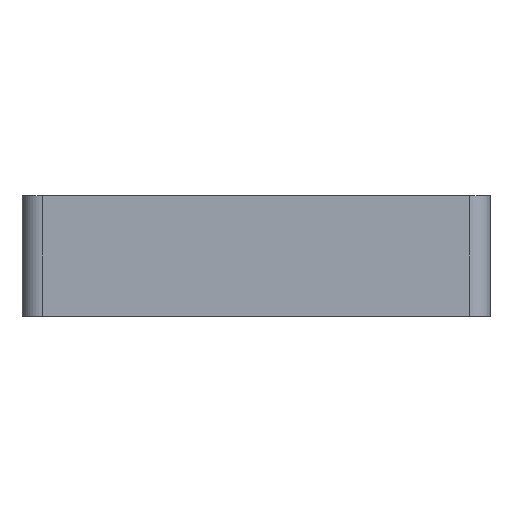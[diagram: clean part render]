
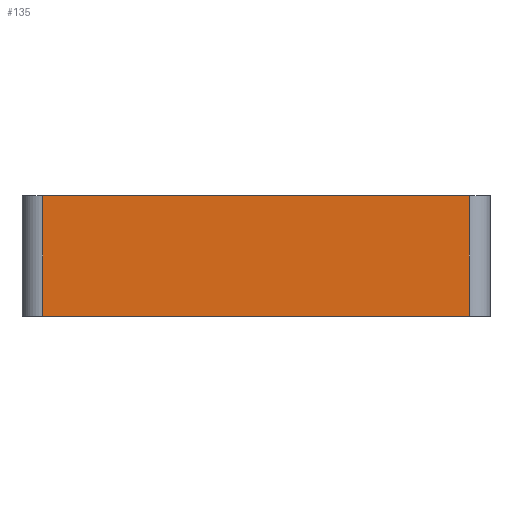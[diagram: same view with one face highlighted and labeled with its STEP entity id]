
A CAD part, left-side view. The second image highlights one B-rep face of the part: STEP entity #135.
In plain terms, the highlighted free-form (B-spline) face has degree [1, 1] with [2, 2] control points.
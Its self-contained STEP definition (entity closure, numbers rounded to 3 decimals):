
#21 = EDGE_CURVE('',#22,#24,#26,.T.);
#22 = VERTEX_POINT('',#23);
#23 = CARTESIAN_POINT('',(-3.29,78.28,
    10.));
#24 = VERTEX_POINT('',#25);
#25 = CARTESIAN_POINT('',(-3.29,78.28,
    32.));
#26 = SURFACE_CURVE('',#27,(#30,#44),.PCURVE_S1.);
#27 = B_SPLINE_CURVE_WITH_KNOTS('',1,(#28,#29),.UNSPECIFIED.,.F.,.F.,(2,
    2),(0.,10.),.PIECEWISE_BEZIER_KNOTS.);
#28 = CARTESIAN_POINT('',(-3.29,78.28,
    10.));
#29 = CARTESIAN_POINT('',(-3.29,78.28,
    32.));
#30 = PCURVE('',#31,#38);
#31 = ( BOUNDED_SURFACE() B_SPLINE_SURFACE(2,1,(
    (#32,#33)
    ,(#34,#35)
,(#36,#37
  )),.UNSPECIFIED.,.F.,.F.,.F.) B_SPLINE_SURFACE_WITH_KNOTS((3,3),(2,2),
  (0.,1.571),(-10.,0.),.PIECEWISE_BEZIER_KNOTS.) 
GEOMETRIC_REPRESENTATION_ITEM() RATIONAL_B_SPLINE_SURFACE((
    (1.,1.)
    ,(0.707,0.707)
,(1.,1.))) REPRESENTATION_ITEM('') SURFACE() );
#32 = CARTESIAN_POINT('',(-3.29,78.28,
    32.));
#33 = CARTESIAN_POINT('',(-3.29,78.28,
    10.));
#34 = CARTESIAN_POINT('',(-3.29,82.03,
    32.));
#35 = CARTESIAN_POINT('',(-3.29,82.03,
    10.));
#36 = CARTESIAN_POINT('',(0.46,82.03,32.));
#37 = CARTESIAN_POINT('',(0.46,82.03,10.));
#38 = DEFINITIONAL_REPRESENTATION('',(#39),#43);
#39 = B_SPLINE_CURVE_WITH_KNOTS('',2,(#40,#41,#42),.UNSPECIFIED.,.F.,.F.
  ,(3,3),(0.,10.),.PIECEWISE_BEZIER_KNOTS.);
#40 = CARTESIAN_POINT('',(0.,0.));
#41 = CARTESIAN_POINT('',(0.,-5.));
#42 = CARTESIAN_POINT('',(0.,-10.));
#43 = ( GEOMETRIC_REPRESENTATION_CONTEXT(2) 
PARAMETRIC_REPRESENTATION_CONTEXT() REPRESENTATION_CONTEXT('2D SPACE',''
  ) );
#44 = PCURVE('',#45,#50);
#45 = B_SPLINE_SURFACE_WITH_KNOTS('',1,1,(
    (#46,#47)
    ,(#48,#49
    )),.UNSPECIFIED.,.F.,.F.,.F.,(2,2),(2,2),(0.,77.82),(
    -10.,0.),.PIECEWISE_BEZIER_KNOTS.);
#46 = CARTESIAN_POINT('',(-3.29,0.46,32.));
#47 = CARTESIAN_POINT('',(-3.29,0.46,10.));
#48 = CARTESIAN_POINT('',(-3.29,78.28,
    32.));
#49 = CARTESIAN_POINT('',(-3.29,78.28,
    10.));
#50 = DEFINITIONAL_REPRESENTATION('',(#51),#54);
#51 = B_SPLINE_CURVE_WITH_KNOTS('',1,(#52,#53),.UNSPECIFIED.,.F.,.F.,(2,
    2),(0.,10.),.PIECEWISE_BEZIER_KNOTS.);
#52 = CARTESIAN_POINT('',(77.82,0.));
#53 = CARTESIAN_POINT('',(77.82,-10.));
#54 = ( GEOMETRIC_REPRESENTATION_CONTEXT(2) 
PARAMETRIC_REPRESENTATION_CONTEXT() REPRESENTATION_CONTEXT('2D SPACE',''
  ) );
#72 = B_SPLINE_SURFACE_WITH_KNOTS('',1,1,(
    (#73,#74)
    ,(#75,#76)),.UNSPECIFIED.,.F.,.F.,.F.,(2,2),(2,2),(-3.29,
    94.73),(-3.29,82.03),
  .PIECEWISE_BEZIER_KNOTS.);
#73 = CARTESIAN_POINT('',(-3.29,-3.29,
    32.));
#74 = CARTESIAN_POINT('',(-3.29,82.03,
    32.));
#75 = CARTESIAN_POINT('',(94.73,-3.29,
    32.));
#76 = CARTESIAN_POINT('',(94.73,82.03,
    32.));
#124 = B_SPLINE_SURFACE_WITH_KNOTS('',1,1,(
    (#125,#126)
    ,(#127,#128
    )),.UNSPECIFIED.,.F.,.F.,.F.,(2,2),(2,2),(-3.29,
    94.73),(-3.29,82.03),
  .PIECEWISE_BEZIER_KNOTS.);
#125 = CARTESIAN_POINT('',(-3.29,-3.29,
    10.));
#126 = CARTESIAN_POINT('',(-3.29,82.03,
    10.));
#127 = CARTESIAN_POINT('',(94.73,-3.29,
    10.));
#128 = CARTESIAN_POINT('',(94.73,82.03,
    10.));
#135 = ADVANCED_FACE('',(#136),#45,.T.);
#136 = FACE_BOUND('',#137,.T.);
#137 = EDGE_LOOP('',(#138,#168,#186,#187));
#138 = ORIENTED_EDGE('',*,*,#139,.T.);
#139 = EDGE_CURVE('',#140,#142,#144,.T.);
#140 = VERTEX_POINT('',#141);
#141 = CARTESIAN_POINT('',(-3.29,0.46,10.));
#142 = VERTEX_POINT('',#143);
#143 = CARTESIAN_POINT('',(-3.29,0.46,32.));
#144 = SURFACE_CURVE('',#145,(#148,#154),.PCURVE_S1.);
#145 = B_SPLINE_CURVE_WITH_KNOTS('',1,(#146,#147),.UNSPECIFIED.,.F.,.F.,
  (2,2),(0.,10.),.PIECEWISE_BEZIER_KNOTS.);
#146 = CARTESIAN_POINT('',(-3.29,0.46,10.));
#147 = CARTESIAN_POINT('',(-3.29,0.46,32.));
#148 = PCURVE('',#45,#149);
#149 = DEFINITIONAL_REPRESENTATION('',(#150),#153);
#150 = B_SPLINE_CURVE_WITH_KNOTS('',1,(#151,#152),.UNSPECIFIED.,.F.,.F.,
  (2,2),(0.,10.),.PIECEWISE_BEZIER_KNOTS.);
#151 = CARTESIAN_POINT('',(0.,0.));
#152 = CARTESIAN_POINT('',(0.,-10.));
#153 = ( GEOMETRIC_REPRESENTATION_CONTEXT(2) 
PARAMETRIC_REPRESENTATION_CONTEXT() REPRESENTATION_CONTEXT('2D SPACE',''
  ) );
#154 = PCURVE('',#155,#162);
#155 = ( BOUNDED_SURFACE() B_SPLINE_SURFACE(2,1,(
    (#156,#157)
    ,(#158,#159)
,(#160,#161
    )),.UNSPECIFIED.,.F.,.F.,.F.) B_SPLINE_SURFACE_WITH_KNOTS((3,3),(2,2
    ),(0.,1.571),(-10.,0.),
.PIECEWISE_BEZIER_KNOTS.) GEOMETRIC_REPRESENTATION_ITEM() 
RATIONAL_B_SPLINE_SURFACE((
    (1.,1.)
    ,(0.707,0.707)
,(1.,1.))) REPRESENTATION_ITEM('') SURFACE() );
#156 = CARTESIAN_POINT('',(0.46,-3.29,32.));
#157 = CARTESIAN_POINT('',(0.46,-3.29,10.));
#158 = CARTESIAN_POINT('',(-3.29,-3.29,
    32.));
#159 = CARTESIAN_POINT('',(-3.29,-3.29,
    10.));
#160 = CARTESIAN_POINT('',(-3.29,0.46,32.));
#161 = CARTESIAN_POINT('',(-3.29,0.46,10.));
#162 = DEFINITIONAL_REPRESENTATION('',(#163),#167);
#163 = B_SPLINE_CURVE_WITH_KNOTS('',2,(#164,#165,#166),.UNSPECIFIED.,.F.
  ,.F.,(3,3),(0.,10.),.PIECEWISE_BEZIER_KNOTS.);
#164 = CARTESIAN_POINT('',(1.571,0.));
#165 = CARTESIAN_POINT('',(1.571,-5.));
#166 = CARTESIAN_POINT('',(1.571,-10.));
#167 = ( GEOMETRIC_REPRESENTATION_CONTEXT(2) 
PARAMETRIC_REPRESENTATION_CONTEXT() REPRESENTATION_CONTEXT('2D SPACE',''
  ) );
#168 = ORIENTED_EDGE('',*,*,#169,.T.);
#169 = EDGE_CURVE('',#142,#24,#170,.T.);
#170 = SURFACE_CURVE('',#171,(#174,#180),.PCURVE_S1.);
#171 = B_SPLINE_CURVE_WITH_KNOTS('',1,(#172,#173),.UNSPECIFIED.,.F.,.F.,
  (2,2),(0.,77.82),.PIECEWISE_BEZIER_KNOTS.);
#172 = CARTESIAN_POINT('',(-3.29,0.46,32.));
#173 = CARTESIAN_POINT('',(-3.29,78.28,
    32.));
#174 = PCURVE('',#45,#175);
#175 = DEFINITIONAL_REPRESENTATION('',(#176),#179);
#176 = B_SPLINE_CURVE_WITH_KNOTS('',1,(#177,#178),.UNSPECIFIED.,.F.,.F.,
  (2,2),(0.,77.82),.PIECEWISE_BEZIER_KNOTS.);
#177 = CARTESIAN_POINT('',(0.,-10.));
#178 = CARTESIAN_POINT('',(77.82,-10.));
#179 = ( GEOMETRIC_REPRESENTATION_CONTEXT(2) 
PARAMETRIC_REPRESENTATION_CONTEXT() REPRESENTATION_CONTEXT('2D SPACE',''
  ) );
#180 = PCURVE('',#72,#181);
#181 = DEFINITIONAL_REPRESENTATION('',(#182),#185);
#182 = B_SPLINE_CURVE_WITH_KNOTS('',1,(#183,#184),.UNSPECIFIED.,.F.,.F.,
  (2,2),(0.,77.82),.PIECEWISE_BEZIER_KNOTS.);
#183 = CARTESIAN_POINT('',(-3.29,0.46));
#184 = CARTESIAN_POINT('',(-3.29,78.28));
#185 = ( GEOMETRIC_REPRESENTATION_CONTEXT(2) 
PARAMETRIC_REPRESENTATION_CONTEXT() REPRESENTATION_CONTEXT('2D SPACE',''
  ) );
#186 = ORIENTED_EDGE('',*,*,#21,.F.);
#187 = ORIENTED_EDGE('',*,*,#188,.F.);
#188 = EDGE_CURVE('',#140,#22,#189,.T.);
#189 = SURFACE_CURVE('',#190,(#193,#199),.PCURVE_S1.);
#190 = B_SPLINE_CURVE_WITH_KNOTS('',1,(#191,#192),.UNSPECIFIED.,.F.,.F.,
  (2,2),(0.,77.82),.PIECEWISE_BEZIER_KNOTS.);
#191 = CARTESIAN_POINT('',(-3.29,0.46,10.));
#192 = CARTESIAN_POINT('',(-3.29,78.28,
    10.));
#193 = PCURVE('',#45,#194);
#194 = DEFINITIONAL_REPRESENTATION('',(#195),#198);
#195 = B_SPLINE_CURVE_WITH_KNOTS('',1,(#196,#197),.UNSPECIFIED.,.F.,.F.,
  (2,2),(0.,77.82),.PIECEWISE_BEZIER_KNOTS.);
#196 = CARTESIAN_POINT('',(0.,0.));
#197 = CARTESIAN_POINT('',(77.82,0.));
#198 = ( GEOMETRIC_REPRESENTATION_CONTEXT(2) 
PARAMETRIC_REPRESENTATION_CONTEXT() REPRESENTATION_CONTEXT('2D SPACE',''
  ) );
#199 = PCURVE('',#124,#200);
#200 = DEFINITIONAL_REPRESENTATION('',(#201),#204);
#201 = B_SPLINE_CURVE_WITH_KNOTS('',1,(#202,#203),.UNSPECIFIED.,.F.,.F.,
  (2,2),(0.,77.82),.PIECEWISE_BEZIER_KNOTS.);
#202 = CARTESIAN_POINT('',(-3.29,0.46));
#203 = CARTESIAN_POINT('',(-3.29,78.28));
#204 = ( GEOMETRIC_REPRESENTATION_CONTEXT(2) 
PARAMETRIC_REPRESENTATION_CONTEXT() REPRESENTATION_CONTEXT('2D SPACE',''
  ) );
